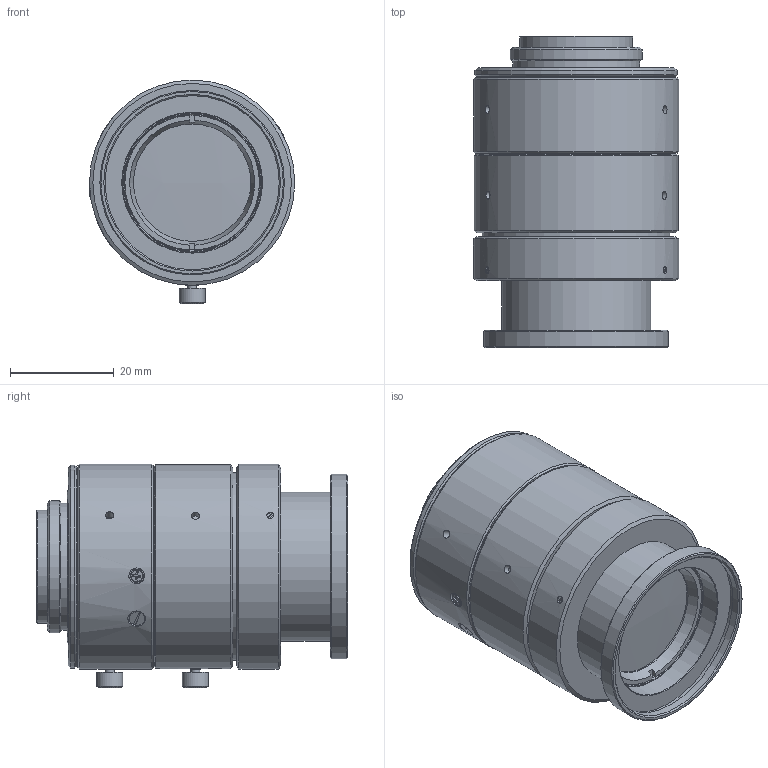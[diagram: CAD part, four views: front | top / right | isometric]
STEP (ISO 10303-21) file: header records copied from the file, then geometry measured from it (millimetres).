
FILE_DESCRIPTION( ( 'Unknown' ), '1' );
FILE_NAME( 'C:/Users/140166/Desktop/V5028-MPY_50mm.stp', 'Unknown', ( 'Unknown' ), ( 'Unknown' ), 'PSStep 17.0.49', 'Unknown', ' ' );
FILE_SCHEMA( ( 'AUTOMOTIVE_DESIGN { 1 0 10303 214 1 1 1 1 }' ) );
Length unit declared in the file: millimetre
Products named in the file (1): V5028-MPY_50mm
Bounding box: 39.55 x 59.87 x 43.09 mm (x, y, z)
Volume: 56298.1 mm3; surface area: 12083.7 mm2
Topology: 1 solids, 6 shells, 303 faces, 751 edges, 501 vertices
Faces by surface type: plane 179, cylinder 78, cone 42, torus 2, sphere 2
Full cylindrical faces by diameter (mm): 1.321 x6, 1.567 x4, 1.7 x5, 1.8 x3, 2 x1, 2.5 x2, 2.8 x1, 3 x5, 3.4 x1, 3.5 x3, 4.999 x2, 16.5 x1, 17.2 x1, 21.7 x1, 22.6 x1, 24.4 x1, 25.4 x1, 26.5 x1, 26.6 x1, 26.9 x1, 28.7 x1, 33.5 x1, 34 x1, 35.5 x2, 36.1 x1, 37.6 x2, 38.2 x2, 39 x1, 39.2 x1, 39.5 x2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
Entity records: 11116 total; most frequent: CARTESIAN_POINT 2095, DIRECTION 1345, ORIENTED_EDGE 1212, EDGE_CURVE 606, AXIS2_PLACEMENT_3D 486, VERTEX_POINT 449, EDGE_LOOP 447, LINE 373
